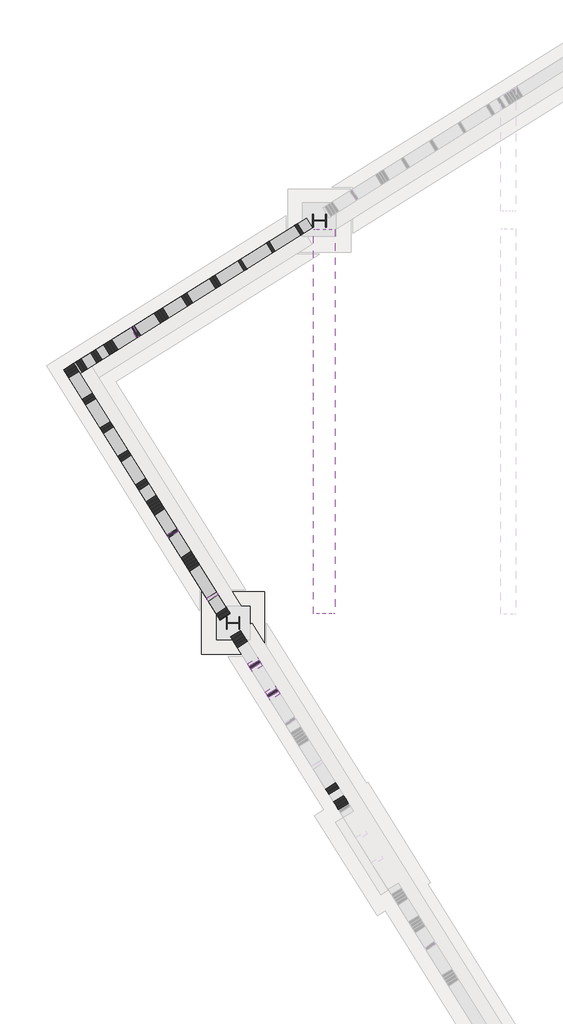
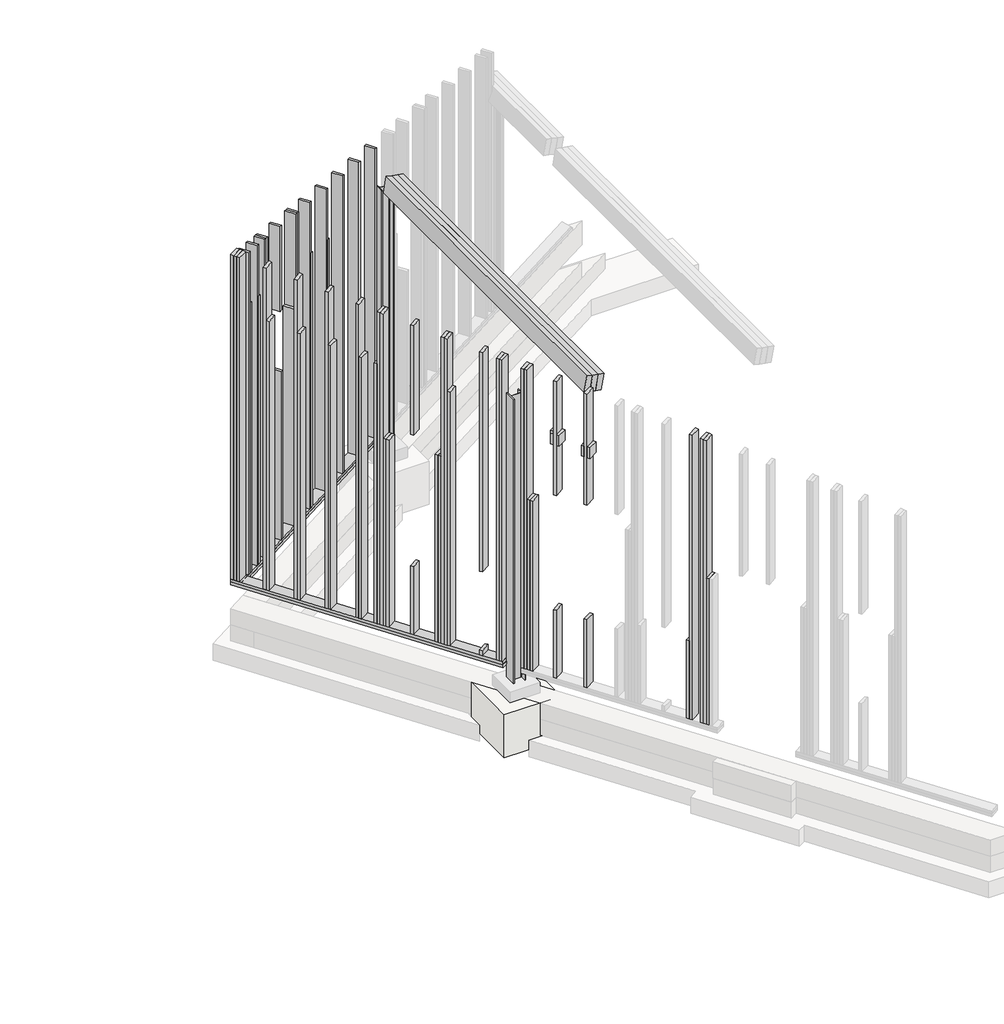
# One storey, part 2 of 4: 66 columns, 5 beams, 5 fasteners, 1 slab.
"""IFC4 building model written with IfcOpenShell, lengths in millimetres."""

from ifc_helpers import new_model, si_unit, point, frame, frame_2d, origin, place, context, project, spatial, polyline, circle_curve, ellipse_curve, trimmed, segment, composite_curve, outline, extrude, faceted_brep, transform, mapped, element, save
from ifc_brep_helpers import plane_surface, revolved_surface, advanced_brep
from components import beam_38x140_0763ffc5, beam_38x140_bfaffe18, beam_38x140_75151bbb, beam_38x140_0e3061da, column_base_plate_4_hole_ed_15mm_67fb65c9, m_anchor_rod_with_anchor_plate_m_anchor_rod_with_anchor_bff3a3cc

model = new_model("IFC4")

# Units and contexts
model_context = context("Model", 3, world=origin())
ifc_project = project(units=[si_unit("LENGTHUNIT", "METRE", prefix="MILLI")], contexts=[model_context])

# Site, building, storey
site = spatial("IfcSite", under=ifc_project)
building = spatial("IfcBuilding", under=site)
storey = spatial("IfcBuildingStorey", under=building, Name="Ground Floor Plan Showing Foundations", Elevation=-93.0)

# Beams
placement = place(None, origin())
element("IfcBeam", 1, ObjectType="Graded Timber - 3No : 3 x 75x225", at=placement, inside=storey, context=model_context, shape_type="SweptSolid", body=[
    extrude(outline(polyline([(37.5, -1e-07), (-37.5000001, 0.0), (-37.5000001, 4589.7674693), (37.5, 4589.7674693), (37.5, -1e-07)])), frame((-34074.3689269, 11162.0855144, 3624.9861985), z_axis=(0.17364817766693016, 8.945431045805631e-06, 0.9848077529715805), x_axis=(0.9848077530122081, -1.5773208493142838e-06, -0.17364817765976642)), (0.0, 0.0, 1.0), 220.0),
    extrude(outline(polyline([(37.5000001, -1e-07), (-37.5, 0.0), (-37.5, 4589.7674693), (37.5000001, 4589.7674693), (37.5000001, -1e-07)])), frame((-34000.5083455, 11162.0853961, 3611.9625852), z_axis=(0.17364817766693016, 8.945431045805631e-06, 0.9848077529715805), x_axis=(0.9848077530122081, -1.5773208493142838e-06, -0.17364817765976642)), (0.0, 0.0, 1.0), 220.0),
    extrude(outline(polyline([(37.5, -1e-07), (-37.5000001, 0.0), (-37.5000001, 4589.7674693), (37.4999999, 4589.7674693), (37.5, -1e-07)])), frame((-34148.2295084, 11162.0856327, 3638.0098118), z_axis=(0.17364817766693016, 8.945431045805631e-06, 0.9848077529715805), x_axis=(0.9848077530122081, -1.5773208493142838e-06, -0.17364817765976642)), (0.0, 0.0, 1.0), 220.0),
])
beam_38x140_shape = beam_38x140_0763ffc5(model_context)
element("IfcBeam", 2, ObjectType="Graded Timber : 38x140", at=placement, inside=storey, context=model_context, shape_type="MappedRepresentation", body=[
    mapped(beam_38x140_shape, transform((-35696.67108, 14911.5601162, 261.0), x_axis=(-0.8480480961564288, -0.5299192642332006, 0.0), y_axis=(0.0, 0.0, -1.0000000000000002), z_axis=(0.5299192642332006, -0.8480480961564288, 0.0))),
])
beam_38x140_2_shape = beam_38x140_bfaffe18(model_context)
element("IfcBeam", 3, ObjectType="Graded Timber : 38x140", at=placement, inside=storey, context=model_context, shape_type="MappedRepresentation", body=[
    mapped(beam_38x140_2_shape, transform((-36167.2217765, 12607.8805173, 261.0), x_axis=(-0.52991926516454, 0.8480480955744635, 0.0), y_axis=(0.0, 0.0, -1.0000000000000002), z_axis=(-0.8480480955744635, -0.52991926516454, 0.0))),
])
beam_38x140_3_shape = beam_38x140_75151bbb(model_context)
element("IfcBeam", 4, ObjectType="Graded Timber : 38x140", at=placement, inside=storey, context=model_context, shape_type="MappedRepresentation", body=[
    mapped(beam_38x140_3_shape, transform((-35726.3513998, 14893.013794, 299.0), x_axis=(-0.8480480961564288, -0.5299192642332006, 0.0), y_axis=(0.0, 0.0, -1.0000000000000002), z_axis=(0.5299192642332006, -0.8480480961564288, 0.0))),
])
beam_38x140_4_shape = beam_38x140_0e3061da(model_context)
element("IfcBeam", 5, ObjectType="Graded Timber : 38x140", at=placement, inside=storey, context=model_context, shape_type="MappedRepresentation", body=[
    mapped(beam_38x140_4_shape, transform((-36167.2217761, 12607.8805176, 299.0), x_axis=(-0.5299192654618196, 0.8480480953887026, 0.0), y_axis=(0.0, 0.0, -1.0000000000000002), z_axis=(-0.8480480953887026, -0.5299192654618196, 0.0))),
])

# Columns
element("IfcColumn", 6, ObjectType="Timber : 38x140", at=placement, inside=storey, context=model_context, shape_type="Brep", body=[
    faceted_brep([(-34376.3654518, 15819.0997873, 318.0), (-34302.1774369, 15700.3726277, 318.0), (-34334.4033803, 15680.2358808, 318.0), (-34408.5913952, 15798.9630404, 318.0), (-34302.1774369, 15700.3726277, 4347.6684371), (-34376.3654518, 15819.0997873, 4347.6683165), (-34334.4033803, 15680.2358808, 4353.35072), (-34408.5913952, 15798.9630404, 4353.3505994)], [[[0, 1, 2, 3]], [[4, 1, 0, 5]], [[6, 2, 1, 4]], [[7, 3, 2, 6]], [[5, 0, 3, 7]], [[4, 5, 7, 6]]]),
])
element("IfcColumn", 7, ObjectType="Timber : 38x140", at=placement, inside=storey, context=model_context, shape_type="Brep", body=[
    faceted_brep([(-34715.585908, 15607.1340304, 318.0), (-34641.3978931, 15488.4068707, 318.0), (-34673.6238364, 15468.2701238, 318.0), (-34747.8118513, 15586.9972835, 318.0), (-34641.3978931, 15488.4068707, 4407.4819412), (-34715.585908, 15607.1340304, 4407.4818206), (-34673.6238364, 15468.2701238, 4413.1642241), (-34747.8118513, 15586.9972835, 4413.1641035)], [[[0, 1, 2, 3]], [[4, 1, 0, 5]], [[6, 2, 1, 4]], [[7, 3, 2, 6]], [[5, 0, 3, 7]], [[4, 5, 7, 6]]]),
])
element("IfcColumn", 8, ObjectType="Timber : 38x140", at=placement, inside=storey, context=model_context, shape_type="Brep", body=[
    faceted_brep([(-35054.8063642, 15395.1682735, 318.0), (-34980.6183493, 15276.4411138, 318.0), (-35012.8442926, 15256.3043669, 318.0), (-35087.0323075, 15375.0315266, 318.0), (-34980.6183493, 15276.4411138, 4467.2954454), (-35054.8063642, 15395.1682735, 4467.2953247), (-35012.8442926, 15256.3043669, 4472.9777282), (-35087.0323075, 15375.0315266, 4472.9776076)], [[[0, 1, 2, 3]], [[4, 1, 0, 5]], [[6, 2, 1, 4]], [[7, 3, 2, 6]], [[5, 0, 3, 7]], [[4, 5, 7, 6]]]),
])
element("IfcColumn", 9, ObjectType="Timber : 38x140", at=placement, inside=storey, context=model_context, shape_type="Brep", body=[
    faceted_brep([(-35394.0268203, 15183.2025165, 318.0), (-35319.8388054, 15064.4753569, 318.0), (-35352.0647488, 15044.33861, 318.0), (-35426.2527637, 15163.0657696, 318.0), (-35319.8388054, 15064.4753569, 4527.1089495), (-35394.0268203, 15183.2025165, 4527.1088289), (-35352.0647488, 15044.33861, 4532.7912324), (-35426.2527637, 15163.0657696, 4532.7911118)], [[[0, 1, 2, 3]], [[4, 1, 0, 5]], [[6, 2, 1, 4]], [[7, 3, 2, 6]], [[5, 0, 3, 7]], [[4, 5, 7, 6]]]),
])
element("IfcColumn", 10, ObjectType="Timber : 38x140", at=placement, inside=storey, context=model_context, shape_type="Brep", body=[
    faceted_brep([(-36340.0977043, 14592.0399538, 3517.0), (-36265.9096894, 14473.3127941, 3517.0), (-36298.1356328, 14453.1760472, 3517.0), (-36372.3236477, 14571.9032069, 3517.0), (-36265.9096894, 14473.3127941, 4693.9261272), (-36340.0977043, 14592.0399538, 4693.9260066), (-36298.1356328, 14453.1760472, 4699.6084101), (-36372.3236477, 14571.9032069, 4699.6082895)], [[[0, 1, 2, 3]], [[4, 1, 0, 5]], [[6, 2, 1, 4]], [[7, 3, 2, 6]], [[5, 0, 3, 7]], [[4, 5, 7, 6]]]),
])
element("IfcColumn", 11, ObjectType="Timber : 38x140", at=placement, inside=storey, context=model_context, shape_type="Brep", body=[
    faceted_brep([(-36626.4041391, 14413.1385415, 318.0), (-36552.2161242, 14294.4113819, 318.0), (-36584.4420675, 14274.274635, 318.0), (-36658.6300824, 14393.0017946, 318.0), (-36552.2161242, 14294.4113819, 4744.4094621), (-36626.4041391, 14413.1385415, 4744.4093415), (-36584.4420675, 14274.274635, 4750.091745), (-36658.6300824, 14393.0017946, 4750.0916244)], [[[0, 1, 2, 3]], [[4, 1, 0, 5]], [[6, 2, 1, 4]], [[7, 3, 2, 6]], [[5, 0, 3, 7]], [[4, 5, 7, 6]]]),
])
element("IfcColumn", 12, ObjectType="Timber : 38x140", at=placement, inside=storey, context=model_context, shape_type="SweptSolid", body=[
    extrude(outline(polyline([(149.7265851, 0.0), (4672.0, 0.0), (4672.0, -38.0), (153.2772695, -38.0), (149.7265851, 0.0)])), frame((-37126.399241, 14010.7897356, 4990.0), z_axis=(0.8480480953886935, 0.5299192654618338, 0.0), x_axis=(0.0, 0.0, -1.0)), (0.0, 0.0, 1.0), 140.0),
])
element("IfcColumn", 13, ObjectType="Timber : 38x140", at=placement, inside=storey, context=model_context, shape_type="Brep", body=[
    faceted_brep([(-36991.686687, 14184.8865931, 318.0), (-36917.4986721, 14066.1594334, 318.0), (-36949.7246154, 14046.0226865, 318.0), (-37023.9126303, 14164.7498462, 318.0), (-36917.4986721, 14066.1594334, 4808.8184787), (-36991.686687, 14184.8865931, 4808.8183581), (-36949.7246154, 14046.0226865, 4814.5007616), (-37023.9126303, 14164.7498462, 4814.500641)], [[[0, 1, 2, 3]], [[4, 1, 0, 5]], [[6, 2, 1, 4]], [[7, 3, 2, 6]], [[5, 0, 3, 7]], [[4, 5, 7, 6]]]),
])
element("IfcColumn", 14, ObjectType="Timber : 38x140", at=placement, inside=storey, context=model_context, shape_type="SweptSolid", body=[
    extrude(outline(polyline([(181.7097905, 0.0), (4672.0, 0.0), (4672.0, -38.0), (185.2604749, -38.0), (181.7097905, 0.0)])), frame((-36945.0134693, 13720.5118229, 4990.0), z_axis=(0.8480480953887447, 0.5299192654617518, 0.0), x_axis=(0.0, 0.0, -1.0)), (0.0, 0.0, 1.0), 140.0),
])
element("IfcColumn", 15, ObjectType="Timber : 38x140", at=placement, inside=storey, context=model_context, shape_type="SweptSolid", body=[
    extrude(outline(polyline([(219.085416, 0.0), (4672.0, 0.0), (4672.0, -38.0000001), (222.6361005, -38.0000001), (219.085416, 0.0)])), frame((-36733.0457631, 13381.2925848, 4990.0), z_axis=(0.8480480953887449, 0.5299192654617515, 0.0), x_axis=(0.0, 0.0, -1.0)), (0.0, 0.0, 1.0), 140.0),
])
element("IfcColumn", 16, ObjectType="Timber : 38x140", at=placement, inside=storey, context=model_context, shape_type="SweptSolid", body=[
    extrude(outline(polyline([(256.4610416, 0.0), (4672.0, 0.0), (4672.0, -38.0), (260.011726, -38.0), (256.4610416, 0.0)])), frame((-36521.0780569, 13042.0733466, 4990.0), z_axis=(0.8480480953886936, 0.5299192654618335, 0.0), x_axis=(0.0, 0.0, -1.0)), (0.0, 0.0, 1.0), 140.0),
])
element("IfcColumn", 17, ObjectType="Timber : 38x140", at=placement, inside=storey, context=model_context, shape_type="SweptSolid", body=[
    extrude(outline(polyline([(293.8366671, 0.0), (4672.0, 0.0), (4672.0, -38.0000001), (297.3873516, -38.0000001), (293.8366671, 0.0)])), frame((-36309.1103507, 12702.8541085, 4990.0), z_axis=(0.8480480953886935, 0.5299192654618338, 0.0), x_axis=(0.0, 0.0, -1.0)), (0.0, 0.0, 1.0), 140.0),
])
element("IfcColumn", 18, ObjectType="Timber : 38x140", at=placement, inside=storey, context=model_context, shape_type="SweptSolid", body=[
    extrude(outline(polyline([(323.1223836, 0.0), (4672.0, 0.0), (4672.0, -38.0000001), (326.673068, -38.0000001), (323.1223836, 0.0)])), frame((-36143.0228, 12437.0584647, 4990.0), z_axis=(0.8480480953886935, 0.5299192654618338, 0.0), x_axis=(0.0, 0.0, -1.0)), (0.0, 0.0, 1.0), 140.0),
])
element("IfcColumn", 19, ObjectType="Timber : 38x140", at=placement, inside=storey, context=model_context, shape_type="SweptSolid", body=[
    extrude(outline(polyline([(-35933.8087758, 12102.2460387), (-35815.0820424, 12176.4347359), (-35794.9451103, 12144.2089082), (-35913.6718437, 12070.0202111), (-35933.8087758, 12102.2460387)])), frame((0.0, 0.0, 318.0), z_axis=(0.0, 0.0, 1.0), x_axis=(1.0, 0.0, 0.0)), (0.0, 0.0, 1.0), 948.0),
])
element("IfcColumn", 20, ObjectType="Timber : 38x140", at=placement, inside=storey, context=model_context, shape_type="SweptSolid", body=[
    extrude(outline(polyline([(396.9025377, 0.0), (4672.0, 0.0), (4672.0, -38.0), (400.4532221, -38.0), (396.9025377, 0.0)])), frame((-35724.5947523, 11767.4336147, 4990.0), z_axis=(0.8480480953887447, 0.5299192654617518, 0.0), x_axis=(0.0, 0.0, -1.0)), (0.0, 0.0, 1.0), 140.0),
])
element("IfcColumn", 21, ObjectType="Timber : 38x140", at=placement, inside=storey, context=model_context, shape_type="SweptSolid", body=[
    extrude(outline(polyline([(-35461.2395267, 11345.9771554), (-35342.5127932, 11420.1658524), (-35322.3758612, 11387.9400247), (-35441.1025947, 11313.7513277), (-35461.2395267, 11345.9771554)])), frame((0.0, 0.0, 318.0), z_axis=(0.0, 0.0, 1.0), x_axis=(1.0, 0.0, 0.0)), (0.0, 0.0, 1.0), 73.0),
])
element("IfcColumn", 22, ObjectType="Timber : 38x140", at=placement, inside=storey, context=model_context, shape_type="SweptSolid", body=[
    extrude(outline(polyline([(467.1687139, 0.0), (4672.0, 0.0), (4672.0, -38.0), (470.7193984, -38.0), (467.1687139, 0.0)])), frame((-35321.8548684, 11132.3512632, 4990.0), z_axis=(0.8480480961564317, 0.5299192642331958, 0.0), x_axis=(0.0, 0.0, -1.0)), (0.0, 0.0, 1.0), 140.0),
])
element("IfcColumn", 23, ObjectType="Timber : 38x140", at=placement, inside=storey, context=model_context, shape_type="Brep", body=[
    faceted_brep([(-35154.0957296, 10854.4432747, 318.0), (-35035.3697225, 10928.6331341, 318.0), (-35015.232475, 10896.4075036, 318.0), (-35133.9584821, 10822.2176442, 318.0), (-35035.3697225, 10928.6331341, 4492.5031364), (-35154.0957296, 10854.4432747, 4492.5030085), (-35015.232475, 10896.4075036, 4488.952452), (-35133.9584821, 10822.2176442, 4488.9523241)], [[[0, 1, 2, 3]], [[4, 1, 0, 5]], [[6, 2, 1, 4]], [[7, 3, 2, 6]], [[5, 0, 3, 7]], [[4, 5, 7, 6]]]),
])
element("IfcColumn", 24, ObjectType="Timber : 38x140", at=placement, inside=storey, context=model_context, shape_type="SweptSolid", body=[
    extrude(outline(polyline([(532.7596268, 0.0), (2123.0, 0.0), (2123.0, -38.0), (536.3103112, -38.0), (532.7596268, 0.0)])), frame((-34954.1081361, 10534.4034575, 4990.0), z_axis=(0.848048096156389, 0.5299192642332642, 0.0), x_axis=(0.0, 0.0, -1.0)), (0.0, 0.0, 1.0), 140.0),
])
element("IfcColumn", 25, ObjectType="Timber : 38x140", at=placement, inside=storey, context=model_context, shape_type="SweptSolid", body=[
    extrude(outline(polyline([(570.1352523, 0.0), (2123.0, 0.0), (2123.0, -38.0), (573.6859367, -38.0), (570.1352523, 0.0)])), frame((-34742.1404305, 10195.1842193, 4990.0), z_axis=(0.8480480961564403, 0.5299192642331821, 0.0), x_axis=(0.0, 0.0, -1.0)), (0.0, 0.0, 1.0), 140.0),
])
element("IfcColumn", 26, ObjectType="Timber : 38x140", at=placement, inside=storey, context=model_context, shape_type="SweptSolid", body=[
    extrude(outline(polyline([(-33900.3856172, 9112.2868629), (-34019.1116243, 9038.0970035), (-34039.2488718, 9070.322634), (-33920.5228647, 9144.5124934), (-33900.3856172, 9112.2868629)])), frame((0.0, 0.0, 318.0), z_axis=(0.0, 0.0, 1.0), x_axis=(1.0, 0.0, 0.0)), (0.0, 0.0, 1.0), 1094.0),
])
element("IfcColumn", 27, ObjectType="Timber : 38x140", at=placement, inside=storey, context=model_context, shape_type="SweptSolid", body=[
    extrude(outline(polyline([(443.3391693, 0.0), (3502.0, 0.0), (3502.0, -38.0), (446.8898538, -38.0), (443.3391693, 0.0)])), frame((-35461.239526, 11345.9771558, 4990.0), z_axis=(0.8480480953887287, 0.5299192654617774, 0.0), x_axis=(0.0, 0.0, -1.0)), (0.0, 0.0, 1.0), 140.0),
])
element("IfcColumn", 28, ObjectType="Timber : 38x140", at=placement, inside=storey, context=model_context, shape_type="SweptSolid", body=[
    extrude(outline(polyline([(-34954.1085349, 10534.4024067), (-34835.3825279, 10608.5922662), (-34815.2452803, 10576.3666357), (-34933.9712874, 10502.1767762), (-34954.1085349, 10534.4024067)])), frame((0.0, 0.0, 318.0), z_axis=(0.0, 0.0, 1.0), x_axis=(1.0, 0.0, 0.0)), (0.0, 0.0, 1.0), 948.0),
])
element("IfcColumn", 29, ObjectType="Timber : 38x140", at=placement, inside=storey, context=model_context, shape_type="SweptSolid", body=[
    extrude(outline(polyline([(-34742.1375081, 10195.1852438), (-34623.411501, 10269.3751032), (-34603.2742535, 10237.1494727), (-34722.0002606, 10162.9596133), (-34742.1375081, 10195.1852438)])), frame((0.0, 0.0, 318.0), z_axis=(0.0, 0.0, 1.0), x_axis=(1.0, 0.0, 0.0)), (0.0, 0.0, 1.0), 948.0),
])
element("IfcColumn", 30, ObjectType="Timber : 38x140", at=placement, inside=storey, context=model_context, shape_type="SweptSolid", body=[
    extrude(outline(polyline([(319.5716992, 0.0), (4672.0, 0.0), (4672.0, -38.0000001), (323.1223836, -38.0000001), (319.5716992, 0.0)])), frame((-36163.1597316, 12469.2842926, 4990.0), z_axis=(0.8480480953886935, 0.5299192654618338, 0.0), x_axis=(0.0, 0.0, -1.0)), (0.0, 0.0, 1.0), 140.0),
])
element("IfcColumn", 31, ObjectType="Timber : 38x140", at=placement, inside=storey, context=model_context, shape_type="Brep", body=[
    faceted_brep([(-33880.2486846, 9080.0610356, 318.0), (-33998.9746917, 9005.8711762, 318.0), (-34019.1119393, 9038.0968067, 318.0), (-33900.3859322, 9112.2866661, 318.0), (-33998.9746917, 9005.8711762, 4288.8246362), (-33880.2486846, 9080.0610356, 4288.8247641), (-34019.1119393, 9038.0968067, 4292.3753206), (-33900.3859322, 9112.2866661, 4292.3754485)], [[[0, 1, 2, 3]], [[4, 1, 0, 5]], [[6, 2, 1, 4]], [[7, 3, 2, 6]], [[5, 0, 3, 7]], [[4, 5, 7, 6]]]),
])
element("IfcColumn", 32, ObjectType="Timber : 38x140", at=placement, inside=storey, context=model_context, shape_type="Brep", body=[
    faceted_brep([(-33785.4613289, 8928.3695627, 318.0), (-33904.187336, 8854.1797033, 318.0), (-33924.3245835, 8886.4053338, 318.0), (-33805.5985764, 8960.5951932, 318.0), (-33904.187336, 8854.1797033, 4272.1110684), (-33785.4613289, 8928.3695627, 4272.1111962), (-33924.3245835, 8886.4053338, 4275.6617528), (-33805.5985764, 8960.5951932, 4275.6618807)], [[[0, 1, 2, 3]], [[4, 1, 0, 5]], [[6, 2, 1, 4]], [[7, 3, 2, 6]], [[5, 0, 3, 7]], [[4, 5, 7, 6]]]),
])
element("IfcColumn", 33, ObjectType="Timber : 38x140", at=placement, inside=storey, context=model_context, shape_type="SweptSolid", body=[
    extrude(outline(polyline([(-34974.2450681, 10566.6292852), (-34855.5183347, 10640.8179822), (-34835.3814026, 10608.5921545), (-34954.1081361, 10534.4034575), (-34974.2450681, 10566.6292852)])), frame((0.0, 0.0, 3715.0), z_axis=(0.0, 0.0, 1.0), x_axis=(1.0, 0.0, 0.0)), (0.0, 0.0, 1.0), 37.8),
])
element("IfcColumn", 34, ObjectType="Timber : 38x140", at=placement, inside=storey, context=model_context, shape_type="SweptSolid", body=[
    extrude(outline(polyline([(-34933.9712041, 10502.1776299), (-34815.2444706, 10576.3663269), (-34795.1075386, 10544.1404993), (-34913.834272, 10469.9518023), (-34933.9712041, 10502.1776299)])), frame((0.0, 0.0, 3565.4), z_axis=(0.0, 0.0, 1.0), x_axis=(1.0, 0.0, 0.0)), (0.0, 0.0, 1.0), 150.0),
])
element("IfcColumn", 35, ObjectType="Timber : 38x140", at=placement, inside=storey, context=model_context, shape_type="SweptSolid", body=[
    extrude(outline(polyline([(-34974.2450681, 10566.6292852), (-34855.5183347, 10640.8179822), (-34835.3814026, 10608.5921545), (-34954.1081361, 10534.4034575), (-34974.2450681, 10566.6292852)])), frame((0.0, 0.0, 3565.0), z_axis=(0.0, 0.0, 1.0), x_axis=(1.0, 0.0, 0.0)), (0.0, 0.0, 1.0), 150.0),
])
element("IfcColumn", 36, ObjectType="Timber : 38x140", at=placement, inside=storey, context=model_context, shape_type="SweptSolid", body=[
    extrude(outline(polyline([(-34722.0035049, 10162.9583877), (-34603.2767713, 10237.1470845), (-34583.1398393, 10204.9212568), (-34701.8665729, 10130.73256), (-34722.0035049, 10162.9583877)])), frame((0.0, 0.0, 3528.0), z_axis=(0.0, 0.0, 1.0), x_axis=(1.0, 0.0, 0.0)), (0.0, 0.0, 1.0), 150.0),
])
element("IfcColumn", 37, ObjectType="Timber : 38x140", at=placement, inside=storey, context=model_context, shape_type="SweptSolid", body=[
    extrude(outline(polyline([(-36594.1780828, 14433.2751077), (-36519.9900679, 14314.547948), (-36552.2160112, 14294.4112011), (-36626.4040261, 14413.1383608), (-36594.1780828, 14433.2751077)])), frame((0.0, 0.0, 318.0), z_axis=(0.0, 0.0, 1.0), x_axis=(1.0, 0.0, 0.0)), (0.0, 0.0, 1.0), 3024.0),
])
element("IfcColumn", 38, ObjectType="Timber : 38x140", at=placement, inside=storey, context=model_context, shape_type="SweptSolid", body=[
    extrude(outline(polyline([(-35764.8686168, 11831.8852697), (-35646.1418835, 11906.0739669), (-35626.0049514, 11873.8481392), (-35744.7316848, 11799.6594421), (-35764.8686168, 11831.8852697)])), frame((0.0, 0.0, 318.0), z_axis=(0.0, 0.0, 1.0), x_axis=(1.0, 0.0, 0.0)), (0.0, 0.0, 1.0), 2609.0),
])
element("IfcColumn", 39, ObjectType="Timber : 38x140", at=placement, inside=storey, context=model_context, shape_type="SweptSolid", body=[
    extrude(outline(polyline([(-35113.8205176, 10789.990848), (-34995.0945105, 10864.1807074), (-34974.957263, 10831.9550769), (-35093.68327, 10757.7652175), (-35113.8205176, 10789.990848)])), frame((0.0, 0.0, 318.0), z_axis=(0.0, 0.0, 1.0), x_axis=(1.0, 0.0, 0.0)), (0.0, 0.0, 1.0), 2374.0),
])
element("IfcColumn", 40, ObjectType="Timber : 38x140", at=placement, inside=storey, context=model_context, shape_type="Brep", body=[
    faceted_brep([(-35700.1731721, 14991.903245, 318.0), (-35625.9851572, 14873.1760854, 318.0), (-35658.2111005, 14853.0393385, 318.0), (-35732.3991155, 14971.7664981, 318.0), (-35625.9851572, 14873.1760854, 3862.6288787), (-35700.1731721, 14991.903245, 3862.6287581), (-35658.2111005, 14853.0393385, 3868.3111616), (-35732.3991155, 14971.7664981, 3868.311041)], [[[0, 1, 2, 3]], [[4, 1, 0, 5]], [[6, 2, 1, 4]], [[7, 3, 2, 6]], [[5, 0, 3, 7]], [[4, 5, 7, 6]]]),
])
element("IfcColumn", 41, ObjectType="Timber : 38x140", at=placement, inside=storey, context=model_context, shape_type="Brep", body=[
    faceted_brep([(-36783.9827494, 14314.6730034, 318.0), (-36709.7947345, 14195.9458437, 318.0), (-36742.0206778, 14175.8090968, 318.0), (-36816.2086927, 14294.5362565, 318.0), (-36709.7947345, 14195.9458437, 4053.7330243), (-36783.9827494, 14314.6730034, 4053.7329037), (-36742.0206778, 14175.8090968, 4059.4153072), (-36816.2086927, 14294.5362565, 4059.4151866)], [[[0, 1, 2, 3]], [[4, 1, 0, 5]], [[6, 2, 1, 4]], [[7, 3, 2, 6]], [[5, 0, 3, 7]], [[4, 5, 7, 6]]]),
])
element("IfcColumn", 42, ObjectType="Timber : 38x140", at=placement, inside=storey, context=model_context, shape_type="SweptSolid", body=[
    extrude(outline(polyline([(400.4532221, 0.0), (4672.0, 0.0), (4672.0, -38.0000001), (404.0039066, -38.0000001), (400.4532221, 0.0)])), frame((-35704.4578202, 11735.2077871, 4990.0), z_axis=(0.8480480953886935, 0.5299192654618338, 0.0), x_axis=(0.0, 0.0, -1.0)), (0.0, 0.0, 1.0), 140.0),
])
element("IfcColumn", 43, ObjectType="Timber : 38x140", at=placement, inside=storey, context=model_context, shape_type="SweptSolid", body=[
    extrude(outline(polyline([(-34762.2773625, 10227.4100469), (-34643.5506291, 10301.5987439), (-34623.413697, 10269.3729163), (-34742.1404305, 10195.1842193), (-34762.2773625, 10227.4100469)])), frame((0.0, 0.0, 3528.0), z_axis=(0.0, 0.0, 1.0), x_axis=(1.0, 0.0, 0.0)), (0.0, 0.0, 1.0), 149.4),
])
element("IfcColumn", 44, ObjectType="Timber : 38x140", at=placement, inside=storey, context=model_context, shape_type="Brep", body=[
    faceted_brep([(-35732.3992284, 14971.7666789, 318.0), (-35658.2112135, 14853.0395192, 318.0), (-35690.4371568, 14832.9027723, 318.0), (-35764.6251718, 14951.629932, 318.0), (-35658.2112135, 14853.0395192, 4586.7729202), (-35732.3992284, 14971.7666789, 4586.7727995), (-35690.4371568, 14832.9027723, 4592.455203), (-35764.6251718, 14951.629932, 4592.4550824)], [[[0, 1, 2, 3]], [[4, 1, 0, 5]], [[6, 2, 1, 4]], [[7, 3, 2, 6]], [[5, 0, 3, 7]], [[4, 5, 7, 6]]]),
])
element("IfcColumn", 45, ObjectType="Timber : 38x140", at=placement, inside=storey, context=model_context, shape_type="SweptSolid", body=[
    extrude(outline(polyline([(-36324.0734358, 14602.0530285), (-36249.8854209, 14483.3258688), (-36282.1113642, 14463.1891219), (-36356.2993791, 14581.9162816), (-36324.0734358, 14602.0530285)])), frame((0.0, 0.0, 318.0), z_axis=(0.0, 0.0, 1.0), x_axis=(1.0, 0.0, 0.0)), (0.0, 0.0, 1.0), 2348.0),
])
element("IfcColumn", 46, ObjectType="Timber : 38x140", at=placement, inside=storey, context=model_context, shape_type="Brep", body=[
    faceted_brep([(-36816.2085767, 14294.5360708, 318.0), (-36742.0205618, 14175.8089112, 318.0), (-36774.2465051, 14155.6721643, 318.0), (-36848.4345201, 14274.3993239, 318.0), (-36742.0205618, 14175.8089112, 4777.8770658), (-36816.2085767, 14294.5360708, 4777.8769452), (-36774.2465051, 14155.6721643, 4783.5593487), (-36848.4345201, 14274.3993239, 4783.5592281)], [[[0, 1, 2, 3]], [[4, 1, 0, 5]], [[6, 2, 1, 4]], [[7, 3, 2, 6]], [[5, 0, 3, 7]], [[4, 5, 7, 6]]]),
])
element("IfcColumn", 47, ObjectType="Timber : 38x140", at=placement, inside=storey, context=model_context, shape_type="SweptSolid", body=[
    extrude(outline(polyline([(142.6252162, 0.0), (4672.0, 0.0), (4672.0, -38.0), (146.1759007, -38.0), (142.6252162, 0.0)])), frame((-37166.673105, 14075.241391, 4990.0), z_axis=(0.8480480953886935, 0.5299192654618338, 0.0), x_axis=(0.0, 0.0, -1.0)), (0.0, 0.0, 1.0), 140.0),
])
element("IfcColumn", 48, ObjectType="Timber : 38x140", at=placement, inside=storey, context=model_context, shape_type="SweptSolid", body=[
    extrude(outline(polyline([(146.1759007, 0.0), (4672.0, 0.0), (4672.0, -38.0), (149.7265851, -38.0), (146.1759007, 0.0)])), frame((-37146.5361731, 14043.0155632, 4990.0), z_axis=(0.8480480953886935, 0.5299192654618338, 0.0), x_axis=(0.0, 0.0, -1.0)), (0.0, 0.0, 1.0), 140.0),
])
element("IfcColumn", 49, ObjectType="Timber : 38x140", at=placement, inside=storey, context=model_context, shape_type="SweptSolid", body=[
    extrude(outline(polyline([(-36102.7489347, 12372.6068077), (-35984.0222014, 12446.7955049), (-35963.8852693, 12414.5696772), (-36082.6120026, 12340.3809801), (-36102.7489347, 12372.6068077)])), frame((0.0, 0.0, 318.0), z_axis=(0.0, 0.0, 1.0), x_axis=(1.0, 0.0, 0.0)), (0.0, 0.0, 1.0), 2609.0),
])
element("IfcColumn", 50, ObjectType="Timber : 38x140", at=placement, inside=storey, context=model_context, shape_type="SweptSolid", body=[
    extrude(outline(polyline([(-36122.8858684, 12404.8326367), (-36004.159135, 12479.0213339), (-35984.0222029, 12446.7955063), (-36102.7489363, 12372.6068091), (-36122.8858684, 12404.8326367)])), frame((0.0, 0.0, 318.0), z_axis=(0.0, 0.0, 1.0), x_axis=(1.0, 0.0, 0.0)), (0.0, 0.0, 1.0), 2609.0),
])
element("IfcColumn", 51, ObjectType="Timber : 38x140", at=placement, inside=storey, context=model_context, shape_type="SweptSolid", body=[
    extrude(outline(polyline([(-35744.7316843, 11799.6594424), (-35626.0049509, 11873.8481395), (-35605.8680188, 11841.6223119), (-35724.5947522, 11767.4336147), (-35744.7316843, 11799.6594424)])), frame((0.0, 0.0, 318.0), z_axis=(0.0, 0.0, 1.0), x_axis=(1.0, 0.0, 0.0)), (0.0, 0.0, 1.0), 2609.0),
])
element("IfcColumn", 52, ObjectType="Timber : 38x140", at=placement, inside=storey, context=model_context, shape_type="SweptSolid", body=[
    extrude(outline(polyline([(812.0124607, 0.0), (2340.0, 0.0), (2340.0, -38.0000001), (815.5631451, -38.0000001), (812.0124607, 0.0)])), frame((-35933.8087763, 12102.2460396, 5442.0), z_axis=(0.8480480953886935, 0.5299192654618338, 0.0), x_axis=(0.0, 0.0, -1.0)), (0.0, 0.0, 1.0), 140.0),
])
element("IfcColumn", 53, ObjectType="Timber : 38x140", at=placement, inside=storey, context=model_context, shape_type="SweptSolid", body=[
    extrude(outline(polyline([(-35133.9581753, 10822.2178358), (-35015.2321683, 10896.4076952), (-34995.0949207, 10864.1820647), (-35113.8209278, 10789.9922053), (-35133.9581753, 10822.2178358)])), frame((0.0, 0.0, 318.0), z_axis=(0.0, 0.0, 1.0), x_axis=(1.0, 0.0, 0.0)), (0.0, 0.0, 1.0), 2374.0),
])
element("IfcColumn", 54, ObjectType="Timber : 38x140", at=placement, inside=storey, context=model_context, shape_type="Brep", body=[
    faceted_brep([(-35174.2333873, 10886.6702625, 318.0), (-35055.5073803, 10960.8601219, 318.0), (-35035.3701327, 10928.6344914, 318.0), (-35154.0961398, 10854.444632, 318.0), (-35055.5073803, 10960.8601219, 4496.0539487), (-35174.2333873, 10886.6702625, 4496.0538208), (-35035.3701327, 10928.6344914, 4492.5032643), (-35154.0961398, 10854.444632, 4492.5031364)], [[[0, 1, 2, 3]], [[4, 1, 0, 5]], [[6, 2, 1, 4]], [[7, 3, 2, 6]], [[5, 0, 3, 7]], [[4, 5, 7, 6]]]),
])
element("IfcColumn", 55, ObjectType="Timber : 38x140", at=placement, inside=storey, context=model_context, shape_type="SweptSolid", body=[
    extrude(outline(polyline([(-33765.3071579, 8896.1545071), (-33884.033165, 8821.9646477), (-33904.1704126, 8854.1902782), (-33785.4444055, 8928.3801376), (-33765.3071579, 8896.1545071)])), frame((0.0, 0.0, 318.0), z_axis=(0.0, 0.0, 1.0), x_axis=(1.0, 0.0, 0.0)), (0.0, 0.0, 1.0), 2039.0),
])
element("IfcColumn", 56, ObjectType="Timber : 38x140", at=placement, inside=storey, context=model_context, shape_type="Brep", body=[
    faceted_brep([(-33805.5989866, 8960.5965506, 318.0), (-33924.3249937, 8886.4066911, 318.0), (-33944.4622413, 8918.6323216, 318.0), (-33825.7362342, 8992.822181, 318.0), (-33924.3249937, 8886.4066911, 4275.6618807), (-33805.5989866, 8960.5965506, 4275.6620085), (-33944.4622413, 8918.6323216, 4279.2125651), (-33825.7362342, 8992.822181, 4279.212693)], [[[0, 1, 2, 3]], [[4, 1, 0, 5]], [[6, 2, 1, 4]], [[7, 3, 2, 6]], [[5, 0, 3, 7]], [[4, 5, 7, 6]]]),
])
element("IfcColumn", 57, ObjectType="Timber : 38x140", at=placement, inside=storey, context=model_context, shape_type="SweptSolid", body=[
    extrude(outline(polyline([(1044.0454773, 0.0), (4672.0, 0.0), (4672.0, -38.0), (1047.5961617, -38.0), (1044.0454773, 0.0)])), frame((-36183.2966642, 12501.5101199, 4990.0), z_axis=(0.8480480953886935, 0.5299192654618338, 0.0), x_axis=(0.0, 0.0, -1.0)), (0.0, 0.0, 1.0), 140.0),
])
element("IfcColumn", 58, ObjectType="Timber : 38x140", at=placement, inside=storey, context=model_context, shape_type="Brep", body=[
    faceted_brep([(-35361.800993, 15203.3394491, 318.0), (-35287.6129781, 15084.6122894, 318.0), (-35319.8389214, 15064.4755425, 318.0), (-35394.0269364, 15183.2027022, 318.0), (-35287.6129781, 15084.6122894, 3802.9649083), (-35361.800993, 15203.3394491, 3802.9647877), (-35319.8389214, 15064.4755425, 3808.6471912), (-35394.0269364, 15183.2027022, 3808.6470706)], [[[0, 1, 2, 3]], [[4, 1, 0, 5]], [[6, 2, 1, 4]], [[7, 3, 2, 6]], [[5, 0, 3, 7]], [[4, 5, 7, 6]]]),
])
element("IfcColumn", 59, ObjectType="Timber : 38x140", at=placement, inside=storey, context=model_context, shape_type="SweptSolid", body=[
    extrude(outline(polyline([(913.2849374, 0.0), (4672.0, 0.0), (4672.0, -38.0), (916.8356219, -38.0), (913.2849374, 0.0)])), frame((-36924.8765367, 13688.2859956, 4990.0), z_axis=(0.8480480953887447, 0.5299192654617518, 0.0), x_axis=(0.0, 0.0, -1.0)), (0.0, 0.0, 1.0), 140.0),
])
element("IfcColumn", 60, ObjectType="Timber : 38x140", at=placement, inside=storey, context=model_context, shape_type="SweptSolid", body=[
    extrude(outline(polyline([(950.660563, 0.0), (4672.0, 0.0), (4672.0, -37.9999999), (954.2112474, -37.9999999), (950.660563, 0.0)])), frame((-36712.9088305, 13349.0667574, 4990.0), z_axis=(0.8480480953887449, 0.5299192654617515, 0.0), x_axis=(0.0, 0.0, -1.0)), (0.0, 0.0, 1.0), 140.0),
])
element("IfcColumn", 61, ObjectType="Timber : 38x140", at=placement, inside=storey, context=model_context, shape_type="SweptSolid", body=[
    extrude(outline(polyline([(988.0361886, 0.0), (4672.0, 0.0), (4672.0, -38.0), (991.586873, -38.0), (988.0361886, 0.0)])), frame((-36500.9411244, 13009.8475193, 4990.0), z_axis=(0.8480480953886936, 0.5299192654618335, 0.0), x_axis=(0.0, 0.0, -1.0)), (0.0, 0.0, 1.0), 140.0),
])
element("IfcColumn", 62, ObjectType="Timber : 38x140", at=placement, inside=storey, context=model_context, shape_type="SweptSolid", body=[
    extrude(outline(polyline([(1025.4118141, 0.0), (4672.0, 0.0), (4672.0, -38.0), (1028.9624985, -38.0), (1025.4118141, 0.0)])), frame((-36288.9734182, 12670.6282811, 4990.0), z_axis=(0.8480480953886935, 0.5299192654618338, 0.0), x_axis=(0.0, 0.0, -1.0)), (0.0, 0.0, 1.0), 140.0),
])
element("IfcColumn", 63, ObjectType="Timber : 38x140", at=placement, inside=storey, context=model_context, shape_type="SweptSolid", body=[
    extrude(outline(polyline([(1132.0283691, 0.0), (4672.0, 0.0), (4672.0, -38.0), (1135.5790535, -38.0), (1132.0283691, 0.0)])), frame((-35684.3208876, 11702.9819597, 4990.0), z_axis=(0.8480480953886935, 0.5299192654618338, 0.0), x_axis=(0.0, 0.0, -1.0)), (0.0, 0.0, 1.0), 140.0),
])
element("IfcColumn", 64, ObjectType="Timber : 38x140", at=placement, inside=storey, context=model_context, shape_type="SweptSolid", body=[
    extrude(outline(polyline([(463.6180295, 0.0), (4672.0, 0.0), (4672.0, -38.0000001), (467.1687139, -38.0000001), (463.6180295, 0.0)])), frame((-35341.991801, 11164.5770905, 4990.0), z_axis=(0.8480480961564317, 0.5299192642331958, 0.0), x_axis=(0.0, 0.0, -1.0)), (0.0, 0.0, 1.0), 140.0),
])
element("IfcColumn", 65, ObjectType="Timber : 38x140", at=placement, inside=storey, context=model_context, shape_type="SweptSolid", body=[
    extrude(outline(polyline([(-36053.7934768, 14770.9448983), (-35979.6054618, 14652.2177386), (-36011.8314052, 14632.0809917), (-36086.0194201, 14750.8081514), (-36053.7934768, 14770.9448983)])), frame((0.0, 0.0, 318.0), z_axis=(0.0, 0.0, 1.0), x_axis=(1.0, 0.0, 0.0)), (0.0, 0.0, 1.0), 3024.0),
])
element("IfcColumn", 66, ObjectType="Timber : 38x140", at=placement, inside=storey, context=model_context, shape_type="Brep", body=[
    faceted_brep([(-36021.5678784, 14791.0821972, 318.0), (-35947.3798635, 14672.3550376, 318.0), (-35979.6058068, 14652.2182907, 318.0), (-36053.7938217, 14770.9454503, 318.0), (-35947.3798635, 14672.3550376, 4637.7605097), (-36021.5678784, 14791.0821972, 4637.7603891), (-35979.6058068, 14652.2182907, 4643.4427926), (-36053.7938217, 14770.9454503, 4643.442672)], [[[0, 1, 2, 3]], [[4, 1, 0, 5]], [[6, 2, 1, 4]], [[7, 3, 2, 6]], [[5, 0, 3, 7]], [[4, 5, 7, 6]]]),
])
element("IfcColumn", 67, ObjectType="Timber : 38x140", at=placement, inside=storey, context=model_context, shape_type="Brep", body=[
    faceted_brep([(-35989.3420511, 14811.2191298, 318.0), (-35915.1540361, 14692.4919701, 318.0), (-35947.3799795, 14672.3552232, 318.0), (-36021.5679944, 14791.0823829, 318.0), (-35915.1540361, 14692.4919701, 4632.0782268), (-35989.3420511, 14811.2191298, 4632.0781062), (-35947.3799795, 14672.3552232, 4637.7605097), (-36021.5679944, 14791.0823829, 4637.7603891)], [[[0, 1, 2, 3]], [[4, 1, 0, 5]], [[6, 2, 1, 4]], [[7, 3, 2, 6]], [[5, 0, 3, 7]], [[4, 5, 7, 6]]]),
])
element("IfcColumn", 68, ObjectType="Timber : 38x140", at=placement, inside=storey, context=model_context, shape_type="Brep", body=[
    faceted_brep([(-36658.6301954, 14393.0019754, 318.0), (-36584.4421805, 14274.2748157, 318.0), (-36616.6681238, 14254.1380688, 318.0), (-36690.8561387, 14372.8652285, 318.0), (-36584.4421805, 14274.2748157, 4750.0917453), (-36658.6301954, 14393.0019754, 4750.0916247), (-36616.6681238, 14254.1380688, 4755.7740282), (-36690.8561387, 14372.8652285, 4755.7739076)], [[[0, 1, 2, 3]], [[4, 1, 0, 5]], [[6, 2, 1, 4]], [[7, 3, 2, 6]], [[5, 0, 3, 7]], [[4, 5, 7, 6]]]),
])
element("IfcColumn", 69, ObjectType="Timber : 38x140", at=placement, inside=storey, context=model_context, shape_type="Brep", body=[
    faceted_brep([(-36959.4602219, 14205.022505, 318.0), (-36885.2722069, 14086.2953453, 318.0), (-36917.4981503, 14066.1585984, 318.0), (-36991.6861652, 14184.8857581, 318.0), (-36885.2722069, 14086.2953453, 4084.6744376), (-36959.4602219, 14205.022505, 4084.6743169), (-36917.4981503, 14066.1585984, 4090.3567204), (-36991.6861652, 14184.8857581, 4090.3565998)], [[[0, 1, 2, 3]], [[4, 1, 0, 5]], [[6, 2, 1, 4]], [[7, 3, 2, 6]], [[5, 0, 3, 7]], [[4, 5, 7, 6]]]),
])
element("IfcColumn", 70, ObjectType="UKC-UK Columns-Column : UKC152x152x37", at=placement, inside=storey, context=model_context, shape_type="SweptSolid", body=[
    extrude(outline(composite_curve([segment(polyline([(-35068.9558263, 10974.6549517), (-35075.4558263, 10974.6549517), (-35075.4558263, 11040.2549517)]), True, "CONTINUOUS"), segment(trimmed(circle_curve(frame_2d((-35083.0558263, 11040.2549517)), 7.6), [point((-35075.4558263, 11040.2549517))], [point((-35083.0558263, 11047.8549517))], True, "CARTESIAN"), True, "CONTINUOUS"), segment(polyline([(-35083.0558263, 11047.8549517), (-35206.6558263, 11047.8549517)]), True, "CONTINUOUS"), segment(trimmed(circle_curve(frame_2d((-35206.6558263, 11040.2549517)), 7.6), [point((-35206.6558263, 11047.8549517))], [point((-35214.2558263, 11040.2549517))], True, "CARTESIAN"), True, "CONTINUOUS"), segment(polyline([(-35214.2558263, 11040.2549517), (-35214.2558263, 10974.6549517), (-35225.7558263, 10974.6549517), (-35225.7558263, 11129.0549517), (-35214.2558263, 11129.0549517), (-35214.2558263, 11063.4549517)]), True, "CONTINUOUS"), segment(trimmed(circle_curve(frame_2d((-35206.6558263, 11063.4549517)), 7.6), [point((-35214.2558263, 11063.4549517))], [point((-35206.6558263, 11055.8549517))], True, "CARTESIAN"), True, "CONTINUOUS"), segment(polyline([(-35206.6558263, 11055.8549517), (-35083.0558263, 11055.8549517)]), True, "CONTINUOUS"), segment(trimmed(circle_curve(frame_2d((-35083.0558263, 11063.4549517)), 7.6), [point((-35083.0558263, 11055.8549517))], [point((-35075.4558263, 11063.4549517))], True, "CARTESIAN"), True, "CONTINUOUS"), segment(polyline([(-35075.4558263, 11063.4549517), (-35075.4558263, 11129.0549517), (-35068.9558263, 11129.0549517), (-35068.9558263, 10974.6549517)]), True, "CONTINUOUS")], self_intersect=False)), frame((0.0, 0.0, -53.0), z_axis=(0.0, 0.0, 1.0), x_axis=(1.0, 0.0, 0.0)), (0.0, 0.0, 1.0), 4076.0),
])
element("IfcColumn", 71, ObjectType="UKC-UK Columns-Column : UKC152x152x37", at=placement, inside=storey, context=model_context, shape_type="AdvancedBrep", body=[
    advanced_brep(
    [(-34043.8346198, 15777.223117, 3635.439815), (-34032.3346198, 15777.223117, 3633.4120986), (-34032.3346198, 15931.623117, 3633.4120986), (-34043.8346198, 15931.623117, 3635.439815), (-34043.8346198, 15866.023117, 3635.439815), (-34051.4346198, 15858.423117, 3636.779871), (-34175.0346198, 15858.423117, 3658.5734138), (-34182.6346198, 15866.023117, 3659.9134698), (-34182.6346198, 15931.623117, 3659.9134698), (-34194.1346198, 15931.623117, 3661.9411862), (-34194.1346198, 15777.223117, 3661.9411862), (-34182.6346198, 15777.223117, 3659.9134698), (-34182.6346198, 15842.823117, 3659.9134698), (-34175.0346198, 15850.423117, 3658.5734138), (-34051.4346198, 15850.423117, 3636.779871), (-34043.8346198, 15842.823117, 3635.439815), (-34032.3346198, 15777.223117, -53.0), (-34043.8346198, 15777.223117, -53.0), (-34043.8346198, 15842.823117, -53.0), (-34051.4346198, 15850.423117, -53.0), (-34175.0346198, 15850.423117, -53.0), (-34182.6346198, 15842.823117, -53.0), (-34182.6346198, 15777.223117, -53.0), (-34194.1346198, 15777.223117, -53.0), (-34194.1346198, 15931.623117, -53.0), (-34182.6346198, 15931.623117, -53.0), (-34182.6346198, 15866.023117, -53.0), (-34175.0346198, 15858.423117, -53.0), (-34051.4346198, 15858.423117, -53.0), (-34043.8346198, 15866.023117, -53.0), (-34043.8346198, 15931.623117, -53.0), (-34032.3346198, 15931.623117, -53.0)],
    [
        (0, 1),
        (1, 2),
        (2, 3),
        (3, 4),
        (4, 5, ellipse_curve(frame((-34051.4346198, 15866.023117, 3636.779871), z_axis=(-0.17364453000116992, 0.0, -0.9848083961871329), x_axis=(0.984808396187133, 0.0, -0.17364453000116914)), 7.7172372, 7.6)),
        (5, 6),
        (6, 7, ellipse_curve(frame((-34175.0346198, 15866.023117, 3658.5734138), z_axis=(-0.17364453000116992, 0.0, -0.9848083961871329), x_axis=(0.984808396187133, 0.0, -0.17364453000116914)), 7.7172372, 7.6)),
        (7, 8),
        (8, 9),
        (9, 10),
        (10, 11),
        (11, 12),
        (12, 13, ellipse_curve(frame((-34175.0346198, 15842.823117, 3658.5734138), z_axis=(-0.17364453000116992, 0.0, -0.9848083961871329), x_axis=(0.984808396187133, 0.0, -0.17364453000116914)), 7.7172372, 7.6)),
        (13, 14),
        (14, 15, ellipse_curve(frame((-34051.4346198, 15842.823117, 3636.779871), z_axis=(-0.17364453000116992, 0.0, -0.9848083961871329), x_axis=(0.984808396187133, 0.0, -0.17364453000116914)), 7.7172372, 7.6)),
        (15, 0),
        (16, 17),
        (17, 18),
        (18, 19, circle_curve(frame((-34051.4346198, 15842.823117, -53.0), z_axis=(0.0, 0.0, 1.0), x_axis=(0.0, -1.0, 0.0)), 7.6)),
        (19, 20),
        (20, 21, circle_curve(frame((-34175.0346198, 15842.823117, -53.0), z_axis=(0.0, 0.0, 1.0), x_axis=(0.0, -1.0, 0.0)), 7.6)),
        (21, 22),
        (22, 23),
        (23, 24),
        (24, 25),
        (25, 26),
        (26, 27, circle_curve(frame((-34175.0346198, 15866.023117, -53.0), z_axis=(0.0, 0.0, 1.0), x_axis=(0.0, -1.0, 0.0)), 7.6)),
        (27, 28),
        (28, 29, circle_curve(frame((-34051.4346198, 15866.023117, -53.0), z_axis=(0.0, 0.0, 1.0), x_axis=(0.0, -1.0, 0.0)), 7.6)),
        (29, 30),
        (30, 31),
        (31, 16),
        (0, 17),
        (16, 1),
        (15, 18),
        (14, 19),
        (13, 20),
        (12, 21),
        (11, 22),
        (10, 23),
        (9, 24),
        (8, 25),
        (7, 26),
        (6, 27),
        (5, 28),
        (4, 29),
        (3, 30),
        (2, 31),
    ],
    [
        plane_surface(frame((-34034.1576895, 15854.423117, 3633.733548), z_axis=(0.17364453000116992, 0.0, 0.9848083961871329), x_axis=(0.9848083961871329, 0.0, -0.17364453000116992))),
        plane_surface(frame((-34032.3346198, 15931.623117, -53.0), z_axis=(0.0, 0.0, -1.0), x_axis=(0.0, -1.0, 0.0))),
        plane_surface(frame((-34043.8346198, 15777.223117, 3861.3160275), z_axis=(0.0, -1.0, 0.0), x_axis=(0.0, 0.0, -1.0))),
        plane_surface(frame((-34043.8346198, 15842.823117, 3861.3160275), z_axis=(-1.0, 0.0, 0.0), x_axis=(0.0, 0.0, -1.0))),
        revolved_surface(polyline([(-34051.4346198, 15835.223117, -53.0), (-34051.4346198, 15835.223117, 3638.1199270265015)]), (-34051.4346198, 15842.823117, -53.0), (0.0, 0.0, -1.0)),
        plane_surface(frame((-34175.0346198, 15850.423117, 3861.3160275), z_axis=(0.0, -1.0, 0.0), x_axis=(0.0, 0.0, -1.0))),
        revolved_surface(polyline([(-34175.0346198, 15835.223117, -53.0), (-34175.0346198, 15835.223117, 3659.913469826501)]), (-34175.0346198, 15842.823117, -53.0), (0.0, 0.0, -1.0)),
        plane_surface(frame((-34182.6346198, 15777.223117, 3861.3160275), z_axis=(1.0, 0.0, 0.0), x_axis=(0.0, 0.0, -1.0))),
        plane_surface(frame((-34194.1346198, 15777.223117, 3861.3160275), z_axis=(0.0, -1.0, 0.0), x_axis=(0.0, 0.0, -1.0))),
        plane_surface(frame((-34194.1346198, 15931.623117, 3861.3160275), z_axis=(-1.0, 0.0, 0.0), x_axis=(0.0, 0.0, -1.0))),
        plane_surface(frame((-34182.6346198, 15931.623117, 3861.3160275), z_axis=(0.0, 1.0, 0.0), x_axis=(0.0, 0.0, -1.0))),
        plane_surface(frame((-34182.6346198, 15866.023117, 3861.3160275), z_axis=(1.0, 0.0, 0.0), x_axis=(0.0, 0.0, -1.0))),
        revolved_surface(polyline([(-34175.0346198, 15858.423117, -53.0), (-34175.0346198, 15858.423117, 3659.913469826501)]), (-34175.0346198, 15866.023117, -53.0), (0.0, 0.0, -1.0)),
        plane_surface(frame((-34051.4346198, 15858.423117, 3861.3160275), z_axis=(0.0, 1.0, 0.0), x_axis=(0.0, 0.0, -1.0))),
        revolved_surface(polyline([(-34051.4346198, 15858.423117, -53.0), (-34051.4346198, 15858.423117, 3638.1199270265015)]), (-34051.4346198, 15866.023117, -53.0), (0.0, 0.0, -1.0)),
        plane_surface(frame((-34043.8346198, 15931.623117, 3861.3160275), z_axis=(-1.0, 0.0, 0.0), x_axis=(0.0, 0.0, -1.0))),
        plane_surface(frame((-34032.3346198, 15931.623117, 3861.3160275), z_axis=(0.0, 1.0, 0.0), x_axis=(0.0, 0.0, -1.0))),
        plane_surface(frame((-34032.3346198, 15777.223117, 3861.3160275), z_axis=(1.0, 0.0, 0.0), x_axis=(0.0, 0.0, -1.0))),
    ],
    [
        (0, [[1, 2, 3, 4, 5, 6, 7, 8, 9, 10, 11, 12, 13, 14, 15, 16]]),
        (1, [[17, 18, 19, 20, 21, 22, 23, 24, 25, 26, 27, 28, 29, 30, 31, 32]]),
        (2, [[33, -17, 34, -1]]),
        (3, [[35, -18, -33, -16]]),
        (4, [[36, -19, -35, -15]]),
        (5, [[37, -20, -36, -14]]),
        (6, [[38, -21, -37, -13]]),
        (7, [[39, -22, -38, -12]]),
        (8, [[40, -23, -39, -11]]),
        (9, [[41, -24, -40, -10]]),
        (10, [[42, -25, -41, -9]]),
        (11, [[43, -26, -42, -8]]),
        (12, [[44, -27, -43, -7]]),
        (13, [[45, -28, -44, -6]]),
        (14, [[46, -29, -45, -5]]),
        (15, [[47, -30, -46, -4]]),
        (16, [[48, -31, -47, -3]]),
        (17, [[-34, -32, -48, -2]]),
    ],
),
])

# Fasteners
column_base_plate_4_hole_ed_15mm_shape = column_base_plate_4_hole_ed_15mm_67fb65c9(model_context)
element("IfcFastener", 72, ObjectType="Column Base Plate-4 Hole_ed : 15mm", at=placement, inside=storey, context=model_context, shape_type="MappedRepresentation", body=[
    mapped(column_base_plate_4_hole_ed_15mm_shape, transform((-35144.8558263, 11051.0830053, -53.0), x_axis=(0.0, 1.0, 0.0), y_axis=(1.0, 0.0, 0.0), z_axis=(0.0, 0.0, -1.0))),
])
m_anchor_rod_with_anchor_plate_m_anchor_rod_with_anchor_shape = m_anchor_rod_with_anchor_plate_m_anchor_rod_with_anchor_bff3a3cc(model_context)
element("IfcFastener", 73, ObjectType="M_Anchor Rod with Anchor Plate : M_Anchor Rod with Anchor Plate", at=placement, inside=storey, context=model_context, shape_type="MappedRepresentation", body=[
    mapped(m_anchor_rod_with_anchor_plate_m_anchor_rod_with_anchor_shape, transform((-35244.8558263, 11151.0830053, -33.95), x_axis=(1.0, 0.0, 0.0), y_axis=(0.0, 1.0, 0.0), z_axis=(0.0, 0.0, 1.0))),
])
element("IfcFastener", 74, ObjectType="M_Anchor Rod with Anchor Plate : M_Anchor Rod with Anchor Plate", at=placement, inside=storey, context=model_context, shape_type="MappedRepresentation", body=[
    mapped(m_anchor_rod_with_anchor_plate_m_anchor_rod_with_anchor_shape, transform((-35244.8558263, 10951.0830053, -33.95), x_axis=(1.0, 0.0, 0.0), y_axis=(0.0, 1.0, 0.0), z_axis=(0.0, 0.0, 1.0))),
])
element("IfcFastener", 75, ObjectType="M_Anchor Rod with Anchor Plate : M_Anchor Rod with Anchor Plate", at=placement, inside=storey, context=model_context, shape_type="MappedRepresentation", body=[
    mapped(m_anchor_rod_with_anchor_plate_m_anchor_rod_with_anchor_shape, transform((-35044.8558263, 11151.0830053, -33.95), x_axis=(1.0, 0.0, 0.0), y_axis=(0.0, 1.0, 0.0), z_axis=(0.0, 0.0, 1.0))),
])
element("IfcFastener", 76, ObjectType="M_Anchor Rod with Anchor Plate : M_Anchor Rod with Anchor Plate", at=placement, inside=storey, context=model_context, shape_type="MappedRepresentation", body=[
    mapped(m_anchor_rod_with_anchor_plate_m_anchor_rod_with_anchor_shape, transform((-35044.8558263, 10951.0830053, -33.95), x_axis=(1.0, 0.0, 0.0), y_axis=(0.0, 1.0, 0.0), z_axis=(0.0, 0.0, 1.0))),
])

# Slab
element("IfcSlab", 77, ObjectType="Footing-Strip : 750 x 750 x 600mm", at=placement, inside=storey, context=model_context, shape_type="SweptSolid", body=[
    extrude(outline(polyline([(-35519.8558263, 11426.8549517), (-34769.8558263, 11426.8549517), (-34769.8558263, 10676.8549517), (-35519.8558263, 10676.8549517), (-35519.8558263, 11426.8549517)])), frame((0.0, 0.0, -693.0), z_axis=(0.0, 0.0, 1.0), x_axis=(1.0, 0.0, 0.0)), (0.0, 0.0, 1.0), 600.0),
])

save(model, "model.ifc")
